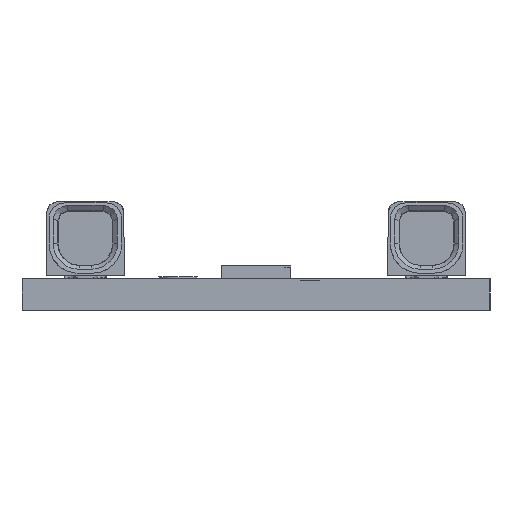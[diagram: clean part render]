
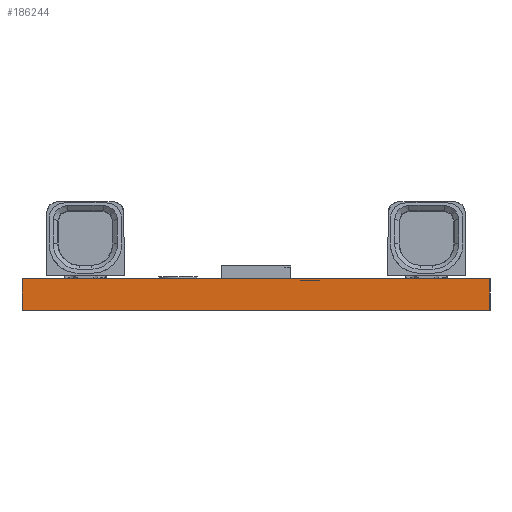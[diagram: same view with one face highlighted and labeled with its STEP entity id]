
A CAD part, left-side view. The second image highlights one B-rep face of the part: STEP entity #186244.
In plain terms, the highlighted planar face has unit normal (-1, 0, 0).
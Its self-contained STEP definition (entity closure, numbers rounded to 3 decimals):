
#311 = VECTOR ( 'NONE', #137250, 1000. ) ;
#2472 = EDGE_CURVE ( 'NONE', #95031, #100307, #189978, .T. ) ;
#12901 = LINE ( 'NONE', #165055, #73456 ) ;
#13282 = CARTESIAN_POINT ( 'NONE',  ( -140., -12., 1.6 ) ) ;
#14875 = ORIENTED_EDGE ( 'NONE', *, *, #2472, .T. ) ;
#15302 = CARTESIAN_POINT ( 'NONE',  ( -140., 12., 0. ) ) ;
#19312 = VERTEX_POINT ( 'NONE', #71529 ) ;
#19328 = DIRECTION ( 'NONE',  ( 0., 0., -1. ) ) ;
#21728 = VECTOR ( 'NONE', #72043, 1000. ) ;
#33095 = AXIS2_PLACEMENT_3D ( 'NONE', #170536, #186625, #19328 ) ;
#34424 = PLANE ( 'NONE',  #33095 ) ;
#42492 = EDGE_LOOP ( 'NONE', ( #14875, #150335, #100271, #53122 ) ) ;
#43609 = EDGE_CURVE ( 'NONE', #179030, #19312, #59459, .T. ) ;
#44109 = CARTESIAN_POINT ( 'NONE',  ( -140., 12., 1.6 ) ) ;
#52116 = VECTOR ( 'NONE', #94182, 1000. ) ;
#53122 = ORIENTED_EDGE ( 'NONE', *, *, #189202, .T. ) ;
#59459 = LINE ( 'NONE', #13282, #311 ) ;
#67938 = CARTESIAN_POINT ( 'NONE',  ( -140., -12., 0. ) ) ;
#71529 = CARTESIAN_POINT ( 'NONE',  ( -140., -12., 1.6 ) ) ;
#72043 = DIRECTION ( 'NONE',  ( 0., 0., -1. ) ) ;
#73456 = VECTOR ( 'NONE', #131826, 1000. ) ;
#79697 = FACE_OUTER_BOUND ( 'NONE', #42492, .T. ) ;
#94182 = DIRECTION ( 'NONE',  ( 0., -1., 0. ) ) ;
#95031 = VERTEX_POINT ( 'NONE', #15302 ) ;
#100271 = ORIENTED_EDGE ( 'NONE', *, *, #43609, .F. ) ;
#100307 = VERTEX_POINT ( 'NONE', #182401 ) ;
#131826 = DIRECTION ( 'NONE',  ( 0., 0., -1. ) ) ;
#132590 = CARTESIAN_POINT ( 'NONE',  ( -140., 12., 1.6 ) ) ;
#137250 = DIRECTION ( 'NONE',  ( 0., -1., 0. ) ) ;
#150335 = ORIENTED_EDGE ( 'NONE', *, *, #165784, .F. ) ;
#160865 = LINE ( 'NONE', #132590, #21728 ) ;
#165055 = CARTESIAN_POINT ( 'NONE',  ( -140., -12., 1.6 ) ) ;
#165784 = EDGE_CURVE ( 'NONE', #19312, #100307, #12901, .T. ) ;
#170536 = CARTESIAN_POINT ( 'NONE',  ( -140., -12., 1.6 ) ) ;
#179030 = VERTEX_POINT ( 'NONE', #44109 ) ;
#182401 = CARTESIAN_POINT ( 'NONE',  ( -140., -12., 0. ) ) ;
#186244 = ADVANCED_FACE ( 'NONE', ( #79697 ), #34424, .F. ) ;
#186625 = DIRECTION ( 'NONE',  ( 1., 0., 0. ) ) ;
#189202 = EDGE_CURVE ( 'NONE', #179030, #95031, #160865, .T. ) ;
#189978 = LINE ( 'NONE', #67938, #52116 ) ;
